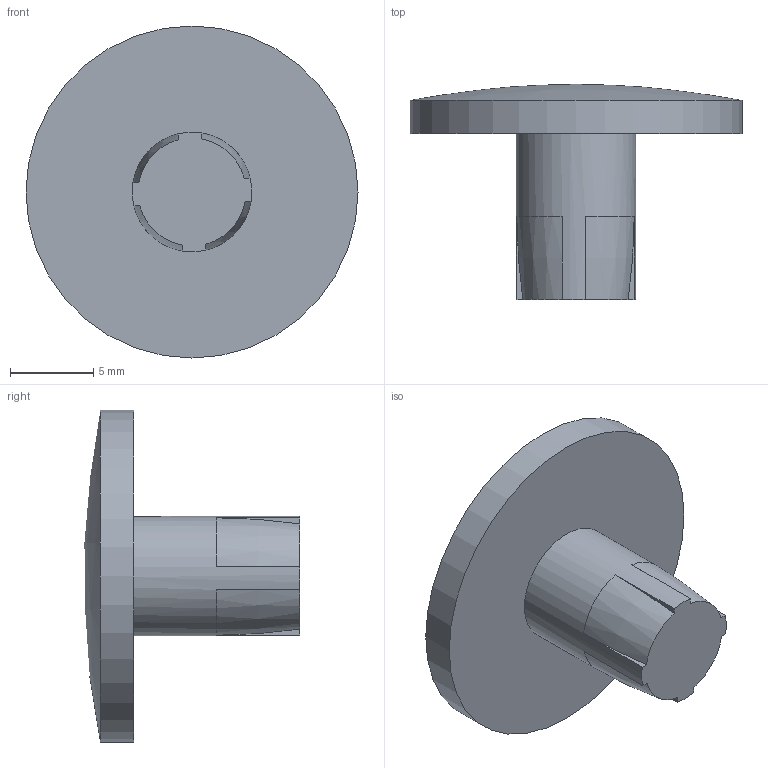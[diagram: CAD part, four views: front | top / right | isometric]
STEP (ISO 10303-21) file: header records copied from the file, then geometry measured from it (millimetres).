
FILE_DESCRIPTION((''),'2;1');
FILE_NAME('C:\Vault Klient\Projekt\Step\300-4030.stp','2009-12-10T07:36:10',('Mathias'),(''),'Autodesk Inventor 2010','Autodesk Inventor 2010','');
FILE_SCHEMA(('CONFIG_CONTROL_DESIGN'));
Length unit declared in the file: millimetre
Products named in the file (1): 300-4030
Bounding box: 20 x 12.96 x 20 mm (x, y, z)
Volume: 1183.6 mm3; surface area: 979.1 mm2
Topology: 1 solids, 1 shells, 17 faces, 42 edges, 28 vertices
Faces by surface type: plane 10, bspline 4, cylinder 2, sphere 1
Full cylindrical faces by diameter (mm): 7.2 x1, 20 x1
Entity records: 558 total; most frequent: CARTESIAN_POINT 156, ORIENTED_EDGE 78, DIRECTION 74, EDGE_CURVE 39, AXIS2_PLACEMENT_3D 29, VERTEX_POINT 27, EDGE_LOOP 20, FACE_OUTER_BOUND 17
